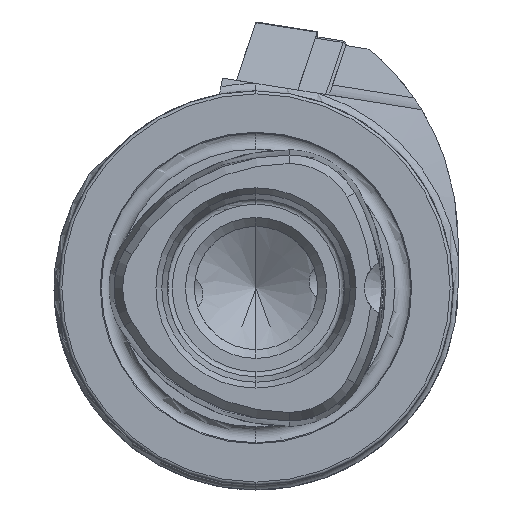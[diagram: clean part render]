
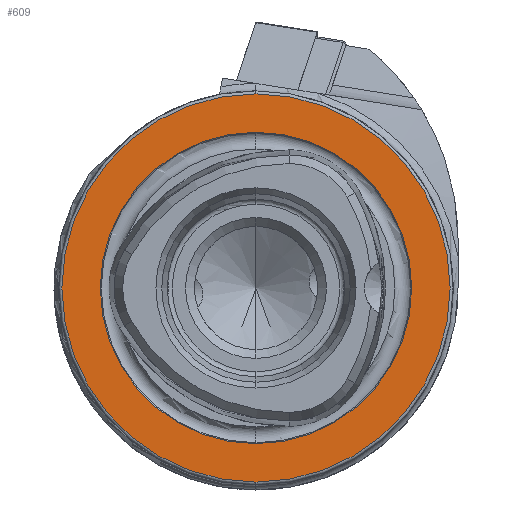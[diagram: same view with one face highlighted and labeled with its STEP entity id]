
A CAD part, left-side view. The second image highlights one B-rep face of the part: STEP entity #609.
In plain terms, the highlighted planar face has unit normal (-1, 0, 0).
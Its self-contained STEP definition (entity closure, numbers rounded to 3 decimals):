
#511 = DIRECTION ( 'NONE',  ( -1., 0., 0. ) ) ;
#609 = ADVANCED_FACE ( 'NONE', ( #3207, #10953 ), #10734, .F. ) ;
#745 = CIRCLE ( 'NONE', #14790, 19.7 ) ;
#1176 = CARTESIAN_POINT ( 'NONE',  ( 0., 0., 15.8 ) ) ;
#1297 = DIRECTION ( 'NONE',  ( 0., 0., -1. ) ) ;
#1418 = AXIS2_PLACEMENT_3D ( 'NONE', #1817, #3059, #1928 ) ;
#1453 = CIRCLE ( 'NONE', #11348, 15.8 ) ;
#1817 = CARTESIAN_POINT ( 'NONE',  ( 0., 0., 0. ) ) ;
#1928 = DIRECTION ( 'NONE',  ( 0., 0., 1. ) ) ;
#2014 = ORIENTED_EDGE ( 'NONE', *, *, #7739, .F. ) ;
#3059 = DIRECTION ( 'NONE',  ( -1., 0., 0. ) ) ;
#3207 = FACE_BOUND ( 'NONE', #12862, .T. ) ;
#4612 = VERTEX_POINT ( 'NONE', #8796 ) ;
#4838 = ORIENTED_EDGE ( 'NONE', *, *, #8035, .T. ) ;
#4918 = CARTESIAN_POINT ( 'NONE',  ( 0., 15.8, 0. ) ) ;
#4949 = CIRCLE ( 'NONE', #1418, 19.7 ) ;
#5094 = DIRECTION ( 'NONE',  ( 0., 0., 1. ) ) ;
#5266 = CARTESIAN_POINT ( 'NONE',  ( 0., 0., 0. ) ) ;
#6052 = CARTESIAN_POINT ( 'NONE',  ( 0., 0., -15.8 ) ) ;
#6261 = CIRCLE ( 'NONE', #14995, 15.8 ) ;
#6811 = ORIENTED_EDGE ( 'NONE', *, *, #13399, .T. ) ;
#7379 = CARTESIAN_POINT ( 'NONE',  ( 0., 0., 19.7 ) ) ;
#7568 = CARTESIAN_POINT ( 'NONE',  ( 0., 0., 0. ) ) ;
#7739 = EDGE_CURVE ( 'NONE', #14578, #8304, #6261, .T. ) ;
#8035 = EDGE_CURVE ( 'NONE', #9032, #4612, #745, .T. ) ;
#8058 = EDGE_CURVE ( 'NONE', #8304, #14578, #1453, .T. ) ;
#8304 = VERTEX_POINT ( 'NONE', #6052 ) ;
#8774 = DIRECTION ( 'NONE',  ( -1., 0., 0. ) ) ;
#8796 = CARTESIAN_POINT ( 'NONE',  ( 0., 0., -19.7 ) ) ;
#8874 = DIRECTION ( 'NONE',  ( -1., 0., 0. ) ) ;
#9032 = VERTEX_POINT ( 'NONE', #7379 ) ;
#9327 = ORIENTED_EDGE ( 'NONE', *, *, #8058, .F. ) ;
#9957 = DIRECTION ( 'NONE',  ( 0., 0., 1. ) ) ;
#10734 = PLANE ( 'NONE',  #10918 ) ;
#10918 = AXIS2_PLACEMENT_3D ( 'NONE', #4918, #14429, #1297 ) ;
#10953 = FACE_OUTER_BOUND ( 'NONE', #14948, .T. ) ;
#10960 = CARTESIAN_POINT ( 'NONE',  ( 0., 0., 0. ) ) ;
#11348 = AXIS2_PLACEMENT_3D ( 'NONE', #5266, #8874, #14749 ) ;
#12862 = EDGE_LOOP ( 'NONE', ( #2014, #9327 ) ) ;
#13399 = EDGE_CURVE ( 'NONE', #4612, #9032, #4949, .T. ) ;
#14429 = DIRECTION ( 'NONE',  ( 1., 0., 0. ) ) ;
#14578 = VERTEX_POINT ( 'NONE', #1176 ) ;
#14749 = DIRECTION ( 'NONE',  ( 0., 0., 1. ) ) ;
#14790 = AXIS2_PLACEMENT_3D ( 'NONE', #7568, #8774, #9957 ) ;
#14948 = EDGE_LOOP ( 'NONE', ( #4838, #6811 ) ) ;
#14995 = AXIS2_PLACEMENT_3D ( 'NONE', #10960, #511, #5094 ) ;
